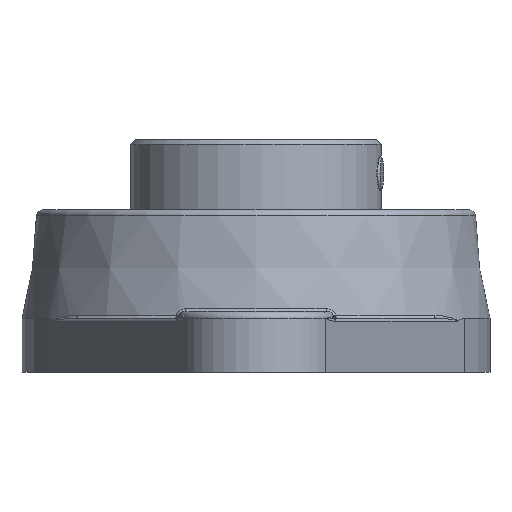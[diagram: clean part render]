
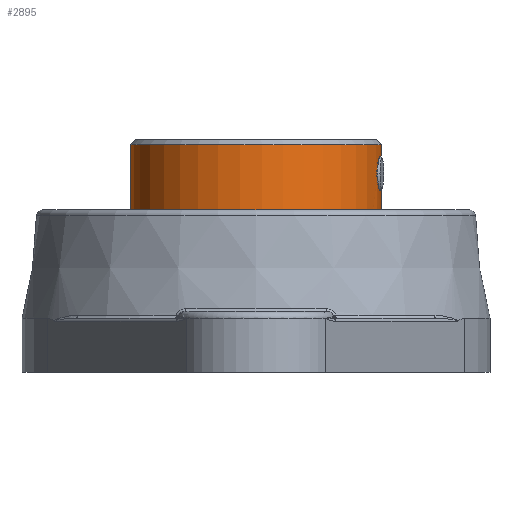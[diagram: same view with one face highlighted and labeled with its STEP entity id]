
A CAD part, left-side view. The second image highlights one B-rep face of the part: STEP entity #2895.
In plain terms, the highlighted cylindrical face has radius 36.944 mm (diameter 73.888 mm), a full revolution.
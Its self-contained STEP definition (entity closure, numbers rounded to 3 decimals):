
#136=FACE_BOUND('',#731,.T.);
#293=LINE('',#6108,#374);
#294=LINE('',#6109,#375);
#374=VECTOR('',#4011,36.944);
#375=VECTOR('',#4012,36.944);
#425=CYLINDRICAL_SURFACE('',#3329,36.944);
#557=FACE_OUTER_BOUND('',#730,.T.);
#730=EDGE_LOOP('',(#2338,#2339,#2340,#2341,#2342,#2343,#2344,#2345,#2346,
#2347));
#731=EDGE_LOOP('',(#2348,#2349));
#859=B_SPLINE_CURVE_WITH_KNOTS('',3,(#5936,#5937,#5938,#5939,#5940,#5941,
#5942,#5943,#5944,#5945),.UNSPECIFIED.,.F.,.F.,(4,2,2,2,4),(0.,0.189,
0.377,0.566,0.754),.UNSPECIFIED.);
#860=B_SPLINE_CURVE_WITH_KNOTS('',3,(#5946,#5947,#5948,#5949,#5950,#5951,
#5952,#5953,#5954,#5955,#5956,#5957,#5958,#5959,#5960,#5961,#5962,#5963,
#5964,#5965,#5966,#5967,#5968,#5969,#5970,#5971),.UNSPECIFIED.,.F.,.F.,
(4,2,2,2,2,2,2,2,2,2,2,2,4),(0.754,0.943,1.132,
1.32,1.509,1.697,1.886,2.075,
2.263,2.452,2.64,2.829,3.017),
 .UNSPECIFIED.);
#863=B_SPLINE_CURVE_WITH_KNOTS('',3,(#6014,#6015,#6016,#6017,#6018,#6019,
#6020,#6021,#6022,#6023),.UNSPECIFIED.,.F.,.F.,(4,2,2,2,4),(0.,0.189,
0.377,0.566,0.754),.UNSPECIFIED.);
#864=B_SPLINE_CURVE_WITH_KNOTS('',3,(#6025,#6026,#6027,#6028,#6029,#6030,
#6031,#6032,#6033,#6034),.UNSPECIFIED.,.F.,.F.,(4,2,2,2,4),(2.263,
2.452,2.64,2.829,3.017),
 .UNSPECIFIED.);
#865=B_SPLINE_CURVE_WITH_KNOTS('',3,(#6035,#6036,#6037,#6038,#6039,#6040,
#6041,#6042,#6043,#6044,#6045,#6046,#6047,#6048,#6049,#6050,#6051,#6052),
 .UNSPECIFIED.,.F.,.F.,(4,2,2,2,2,2,2,2,4),(0.754,0.943,
1.132,1.32,1.509,1.697,1.886,
2.075,2.263),.UNSPECIFIED.);
#1015=CIRCLE('',#3324,36.944);
#1016=CIRCLE('',#3325,36.944);
#1020=CIRCLE('',#3330,36.944);
#1292=VERTEX_POINT('',#5934);
#1293=VERTEX_POINT('',#5935);
#1296=VERTEX_POINT('',#6012);
#1297=VERTEX_POINT('',#6013);
#1298=VERTEX_POINT('',#6024);
#1302=VERTEX_POINT('',#6096);
#1303=VERTEX_POINT('',#6097);
#1306=VERTEX_POINT('',#6106);
#1669=EDGE_CURVE('',#1292,#1293,#859,.T.);
#1670=EDGE_CURVE('',#1293,#1292,#860,.T.);
#1674=EDGE_CURVE('',#1296,#1297,#863,.T.);
#1675=EDGE_CURVE('',#1298,#1296,#864,.T.);
#1676=EDGE_CURVE('',#1297,#1298,#865,.T.);
#1681=EDGE_CURVE('',#1302,#1303,#1015,.T.);
#1682=EDGE_CURVE('',#1303,#1302,#1016,.T.);
#1686=EDGE_CURVE('',#1306,#1306,#1020,.T.);
#1687=EDGE_CURVE('',#1306,#1297,#293,.T.);
#1688=EDGE_CURVE('',#1298,#1302,#294,.T.);
#2338=ORIENTED_EDGE('',*,*,#1686,.F.);
#2339=ORIENTED_EDGE('',*,*,#1687,.T.);
#2340=ORIENTED_EDGE('',*,*,#1676,.T.);
#2341=ORIENTED_EDGE('',*,*,#1688,.T.);
#2342=ORIENTED_EDGE('',*,*,#1681,.T.);
#2343=ORIENTED_EDGE('',*,*,#1682,.T.);
#2344=ORIENTED_EDGE('',*,*,#1688,.F.);
#2345=ORIENTED_EDGE('',*,*,#1675,.T.);
#2346=ORIENTED_EDGE('',*,*,#1674,.T.);
#2347=ORIENTED_EDGE('',*,*,#1687,.F.);
#2348=ORIENTED_EDGE('',*,*,#1669,.T.);
#2349=ORIENTED_EDGE('',*,*,#1670,.T.);
#2895=ADVANCED_FACE('',(#557,#136),#425,.T.);
#3324=AXIS2_PLACEMENT_3D('',#6098,#3997,#3998);
#3325=AXIS2_PLACEMENT_3D('',#6099,#3999,#4000);
#3329=AXIS2_PLACEMENT_3D('',#6105,#4007,#4008);
#3330=AXIS2_PLACEMENT_3D('',#6107,#4009,#4010);
#3997=DIRECTION('center_axis',(1.,0.,0.));
#3998=DIRECTION('ref_axis',(0.,0.,-1.));
#3999=DIRECTION('center_axis',(1.,0.,0.));
#4000=DIRECTION('ref_axis',(0.,0.,-1.));
#4007=DIRECTION('center_axis',(1.,0.,0.));
#4008=DIRECTION('ref_axis',(0.,1.,0.));
#4009=DIRECTION('center_axis',(1.,0.,0.));
#4010=DIRECTION('ref_axis',(0.,0.,-1.));
#4011=DIRECTION('',(-1.,0.,0.));
#4012=DIRECTION('',(-1.,0.,0.));
#5934=CARTESIAN_POINT('',(29.7,22.347,-29.418));
#5935=CARTESIAN_POINT('',(34.7,26.123,-26.123));
#5936=CARTESIAN_POINT('Ctrl Pts',(29.7,22.347,-29.418));
#5937=CARTESIAN_POINT('Ctrl Pts',(30.329,22.347,-29.418));
#5938=CARTESIAN_POINT('Ctrl Pts',(30.999,22.449,-29.342));
#5939=CARTESIAN_POINT('Ctrl Pts',(32.23,22.855,-29.027));
#5940=CARTESIAN_POINT('Ctrl Pts',(32.792,23.16,-28.787));
#5941=CARTESIAN_POINT('Ctrl Pts',(33.679,23.847,-28.22));
#5942=CARTESIAN_POINT('Ctrl Pts',(34.064,24.276,-27.855));
#5943=CARTESIAN_POINT('Ctrl Pts',(34.574,25.192,-27.029));
#5944=CARTESIAN_POINT('Ctrl Pts',(34.7,25.679,-26.568));
#5945=CARTESIAN_POINT('Ctrl Pts',(34.7,26.123,-26.123));
#5946=CARTESIAN_POINT('Ctrl Pts',(34.7,26.123,-26.123));
#5947=CARTESIAN_POINT('Ctrl Pts',(34.7,26.568,-25.679));
#5948=CARTESIAN_POINT('Ctrl Pts',(34.574,27.029,-25.192));
#5949=CARTESIAN_POINT('Ctrl Pts',(34.064,27.855,-24.276));
#5950=CARTESIAN_POINT('Ctrl Pts',(33.679,28.22,-23.847));
#5951=CARTESIAN_POINT('Ctrl Pts',(32.792,28.787,-23.16));
#5952=CARTESIAN_POINT('Ctrl Pts',(32.23,29.027,-22.855));
#5953=CARTESIAN_POINT('Ctrl Pts',(30.999,29.342,-22.449));
#5954=CARTESIAN_POINT('Ctrl Pts',(30.329,29.418,-22.347));
#5955=CARTESIAN_POINT('Ctrl Pts',(29.071,29.418,-22.347));
#5956=CARTESIAN_POINT('Ctrl Pts',(28.401,29.342,-22.449));
#5957=CARTESIAN_POINT('Ctrl Pts',(27.17,29.027,-22.855));
#5958=CARTESIAN_POINT('Ctrl Pts',(26.608,28.787,-23.16));
#5959=CARTESIAN_POINT('Ctrl Pts',(25.721,28.22,-23.847));
#5960=CARTESIAN_POINT('Ctrl Pts',(25.336,27.855,-24.276));
#5961=CARTESIAN_POINT('Ctrl Pts',(24.826,27.029,-25.192));
#5962=CARTESIAN_POINT('Ctrl Pts',(24.7,26.568,-25.679));
#5963=CARTESIAN_POINT('Ctrl Pts',(24.7,25.679,-26.568));
#5964=CARTESIAN_POINT('Ctrl Pts',(24.826,25.192,-27.029));
#5965=CARTESIAN_POINT('Ctrl Pts',(25.336,24.276,-27.855));
#5966=CARTESIAN_POINT('Ctrl Pts',(25.721,23.847,-28.22));
#5967=CARTESIAN_POINT('Ctrl Pts',(26.608,23.16,-28.787));
#5968=CARTESIAN_POINT('Ctrl Pts',(27.17,22.855,-29.027));
#5969=CARTESIAN_POINT('Ctrl Pts',(28.401,22.449,-29.342));
#5970=CARTESIAN_POINT('Ctrl Pts',(29.071,22.347,-29.418));
#5971=CARTESIAN_POINT('Ctrl Pts',(29.7,22.347,-29.418));
#6012=CARTESIAN_POINT('',(29.7,-36.604,5.));
#6013=CARTESIAN_POINT('',(34.7,-36.944,0.));
#6014=CARTESIAN_POINT('Ctrl Pts',(29.7,-36.604,5.));
#6015=CARTESIAN_POINT('Ctrl Pts',(30.329,-36.604,5.));
#6016=CARTESIAN_POINT('Ctrl Pts',(30.999,-36.622,4.874));
#6017=CARTESIAN_POINT('Ctrl Pts',(32.23,-36.686,4.364));
#6018=CARTESIAN_POINT('Ctrl Pts',(32.792,-36.732,3.979));
#6019=CARTESIAN_POINT('Ctrl Pts',(33.679,-36.817,3.092));
#6020=CARTESIAN_POINT('Ctrl Pts',(34.064,-36.862,2.53));
#6021=CARTESIAN_POINT('Ctrl Pts',(34.574,-36.926,1.299));
#6022=CARTESIAN_POINT('Ctrl Pts',(34.7,-36.944,0.629));
#6023=CARTESIAN_POINT('Ctrl Pts',(34.7,-36.944,0.));
#6024=CARTESIAN_POINT('',(24.7,-36.944,0.));
#6025=CARTESIAN_POINT('Ctrl Pts',(24.7,-36.944,0.));
#6026=CARTESIAN_POINT('Ctrl Pts',(24.7,-36.944,0.629));
#6027=CARTESIAN_POINT('Ctrl Pts',(24.826,-36.926,1.299));
#6028=CARTESIAN_POINT('Ctrl Pts',(25.336,-36.862,2.53));
#6029=CARTESIAN_POINT('Ctrl Pts',(25.721,-36.817,3.092));
#6030=CARTESIAN_POINT('Ctrl Pts',(26.608,-36.732,3.979));
#6031=CARTESIAN_POINT('Ctrl Pts',(27.17,-36.686,4.364));
#6032=CARTESIAN_POINT('Ctrl Pts',(28.401,-36.622,4.874));
#6033=CARTESIAN_POINT('Ctrl Pts',(29.071,-36.604,5.));
#6034=CARTESIAN_POINT('Ctrl Pts',(29.7,-36.604,5.));
#6035=CARTESIAN_POINT('Ctrl Pts',(34.7,-36.944,0.));
#6036=CARTESIAN_POINT('Ctrl Pts',(34.7,-36.944,-0.629));
#6037=CARTESIAN_POINT('Ctrl Pts',(34.574,-36.926,-1.299));
#6038=CARTESIAN_POINT('Ctrl Pts',(34.064,-36.862,-2.53));
#6039=CARTESIAN_POINT('Ctrl Pts',(33.679,-36.817,-3.092));
#6040=CARTESIAN_POINT('Ctrl Pts',(32.792,-36.732,-3.979));
#6041=CARTESIAN_POINT('Ctrl Pts',(32.23,-36.686,-4.364));
#6042=CARTESIAN_POINT('Ctrl Pts',(30.999,-36.622,-4.874));
#6043=CARTESIAN_POINT('Ctrl Pts',(30.329,-36.604,-5.));
#6044=CARTESIAN_POINT('Ctrl Pts',(29.071,-36.604,-5.));
#6045=CARTESIAN_POINT('Ctrl Pts',(28.401,-36.622,-4.874));
#6046=CARTESIAN_POINT('Ctrl Pts',(27.17,-36.686,-4.364));
#6047=CARTESIAN_POINT('Ctrl Pts',(26.608,-36.732,-3.979));
#6048=CARTESIAN_POINT('Ctrl Pts',(25.721,-36.817,-3.092));
#6049=CARTESIAN_POINT('Ctrl Pts',(25.336,-36.862,-2.53));
#6050=CARTESIAN_POINT('Ctrl Pts',(24.826,-36.926,-1.299));
#6051=CARTESIAN_POINT('Ctrl Pts',(24.7,-36.944,-0.629));
#6052=CARTESIAN_POINT('Ctrl Pts',(24.7,-36.944,0.));
#6096=CARTESIAN_POINT('',(5.669,-36.944,0.));
#6097=CARTESIAN_POINT('',(5.669,0.,36.944));
#6098=CARTESIAN_POINT('Origin',(5.669,0.,0.));
#6099=CARTESIAN_POINT('Origin',(5.669,0.,0.));
#6105=CARTESIAN_POINT('Origin',(25.85,0.,0.));
#6106=CARTESIAN_POINT('',(38.2,-36.944,0.));
#6107=CARTESIAN_POINT('Origin',(38.2,0.,0.));
#6108=CARTESIAN_POINT('',(25.85,-36.944,0.));
#6109=CARTESIAN_POINT('',(25.85,-36.944,0.));
